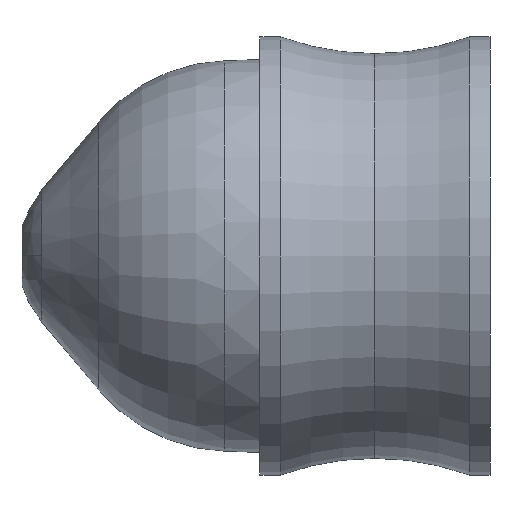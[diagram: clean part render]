
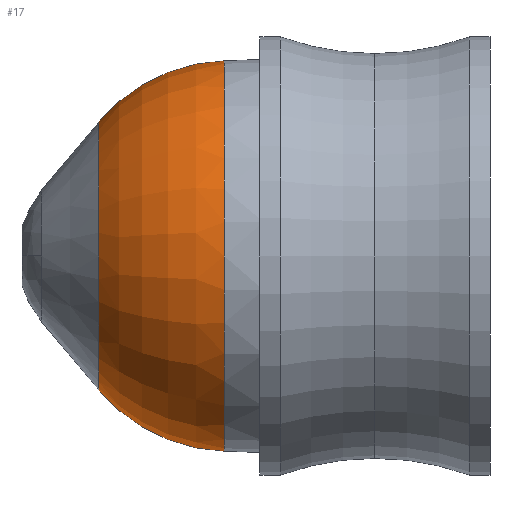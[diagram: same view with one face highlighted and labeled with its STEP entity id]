
A CAD part, front view. The second image highlights one B-rep face of the part: STEP entity #17.
In plain terms, the highlighted toroidal (fillet/blend) face has major radius 0.687 mm and minor radius 5 mm.
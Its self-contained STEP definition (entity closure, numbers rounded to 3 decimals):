
#17 = ADVANCED_FACE ( 'NONE', ( #1855 ), #1042, .T. ) ;
#38 = DIRECTION ( 'NONE',  ( 0., 0., -1. ) ) ;
#61 = CIRCLE ( 'NONE', #537, 5. ) ;
#93 = ORIENTED_EDGE ( 'NONE', *, *, #1931, .T. ) ;
#137 = CARTESIAN_POINT ( 'NONE',  ( -7.737, 0., 0. ) ) ;
#175 = DIRECTION ( 'NONE',  ( 1., 0., 0. ) ) ;
#217 = DIRECTION ( 'NONE',  ( 0., -1., 0. ) ) ;
#284 = AXIS2_PLACEMENT_3D ( 'NONE', #510, #1116, #360 ) ;
#315 = CARTESIAN_POINT ( 'NONE',  ( -7.563, 0., 0. ) ) ;
#349 = CARTESIAN_POINT ( 'NONE',  ( -7.563, 0., -0.687 ) ) ;
#360 = DIRECTION ( 'NONE',  ( 0., 0., -1. ) ) ;
#419 = DIRECTION ( 'NONE',  ( 1., 0., 0. ) ) ;
#510 = CARTESIAN_POINT ( 'NONE',  ( -11.393, 0., 0. ) ) ;
#537 = AXIS2_PLACEMENT_3D ( 'NONE', #349, #217, #38 ) ;
#682 = ORIENTED_EDGE ( 'NONE', *, *, #1146, .F. ) ;
#698 = CARTESIAN_POINT ( 'NONE',  ( -11.393, 0., 3.901 ) ) ;
#734 = CIRCLE ( 'NONE', #893, 5.684 ) ;
#823 = CIRCLE ( 'NONE', #284, 3.901 ) ;
#830 = CIRCLE ( 'NONE', #1147, 5. ) ;
#893 = AXIS2_PLACEMENT_3D ( 'NONE', #137, #419, #1964 ) ;
#951 = ORIENTED_EDGE ( 'NONE', *, *, #1261, .F. ) ;
#1030 = CARTESIAN_POINT ( 'NONE',  ( -7.737, 0., 5.684 ) ) ;
#1042 = TOROIDAL_SURFACE ( 'NONE', #1080, 0.687, 5. ) ;
#1065 = VERTEX_POINT ( 'NONE', #698 ) ;
#1080 = AXIS2_PLACEMENT_3D ( 'NONE', #315, #175, #1187 ) ;
#1116 = DIRECTION ( 'NONE',  ( 1., 0., 0. ) ) ;
#1146 = EDGE_CURVE ( 'NONE', #1963, #1910, #734, .T. ) ;
#1147 = AXIS2_PLACEMENT_3D ( 'NONE', #1805, #1639, #1320 ) ;
#1187 = DIRECTION ( 'NONE',  ( 0., 0., -1. ) ) ;
#1261 = EDGE_CURVE ( 'NONE', #1065, #1963, #830, .T. ) ;
#1320 = DIRECTION ( 'NONE',  ( 0., 0., 1. ) ) ;
#1361 = EDGE_LOOP ( 'NONE', ( #951, #93, #1385, #682 ) ) ;
#1385 = ORIENTED_EDGE ( 'NONE', *, *, #1875, .T. ) ;
#1437 = CARTESIAN_POINT ( 'NONE',  ( -7.737, 0., -5.684 ) ) ;
#1619 = CARTESIAN_POINT ( 'NONE',  ( -11.393, 0., -3.901 ) ) ;
#1639 = DIRECTION ( 'NONE',  ( 0., 1., 0. ) ) ;
#1689 = VERTEX_POINT ( 'NONE', #1619 ) ;
#1805 = CARTESIAN_POINT ( 'NONE',  ( -7.563, 0., 0.687 ) ) ;
#1855 = FACE_OUTER_BOUND ( 'NONE', #1361, .T. ) ;
#1875 = EDGE_CURVE ( 'NONE', #1689, #1910, #61, .T. ) ;
#1910 = VERTEX_POINT ( 'NONE', #1437 ) ;
#1931 = EDGE_CURVE ( 'NONE', #1065, #1689, #823, .T. ) ;
#1963 = VERTEX_POINT ( 'NONE', #1030 ) ;
#1964 = DIRECTION ( 'NONE',  ( 0., 0., -1. ) ) ;
